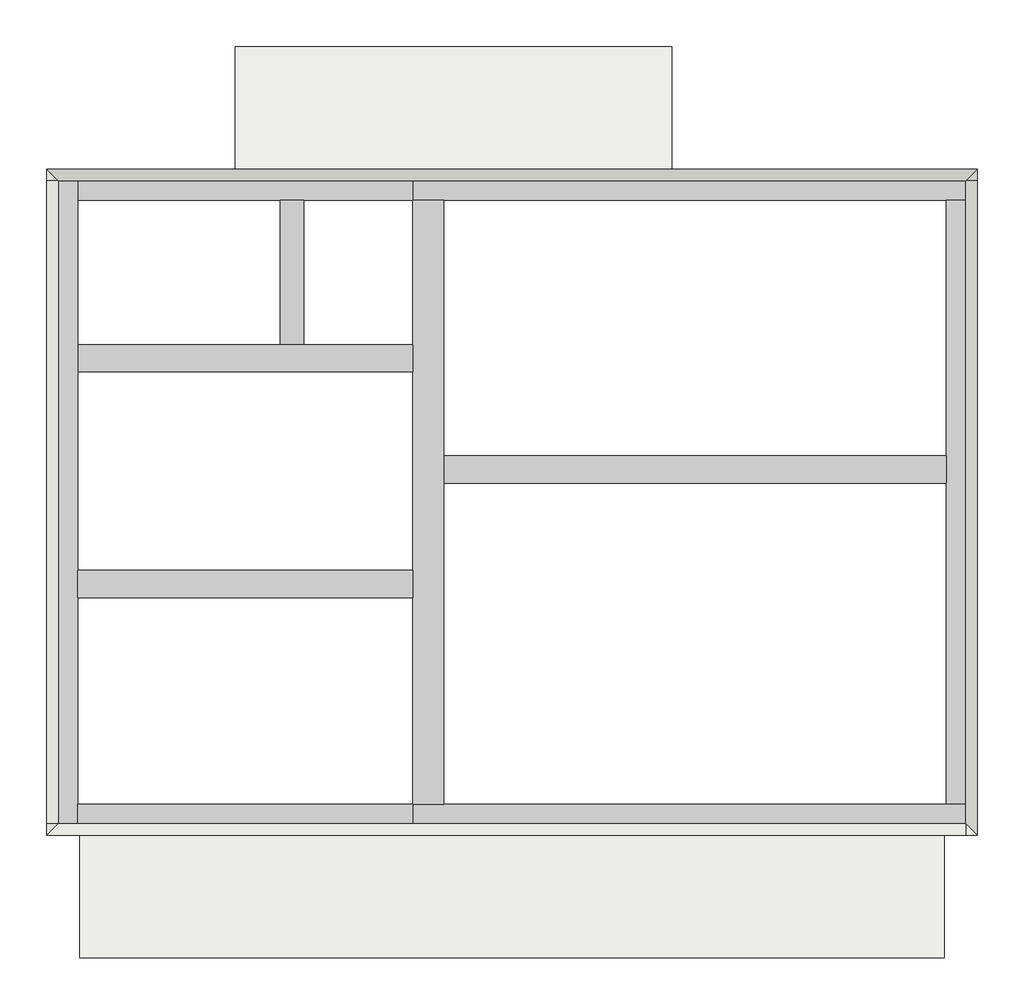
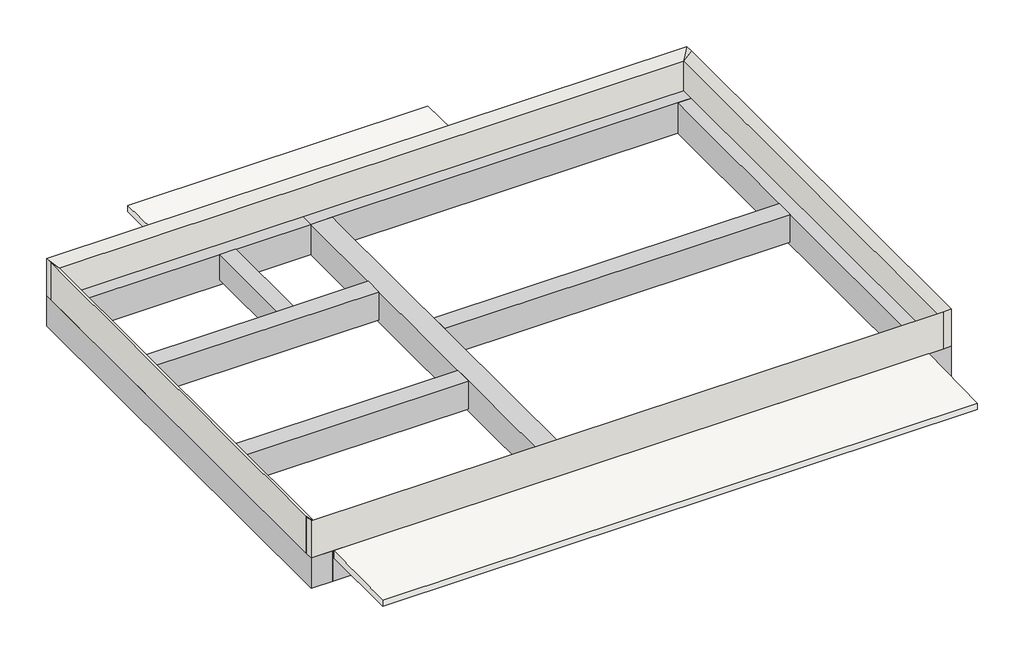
# One storey: 11 beams, 4 walls, 2 slabs.
"""IFC4 building model written with IfcOpenShell, lengths in millimetres."""

from ifc_helpers import new_model, si_unit, frame, origin, place, context, project, spatial, polyline, outline, extrude, faceted_brep, element, save

model = new_model("IFC4")

# Units and contexts
model_context = context("Model", 3, world=origin())
ifc_project = project(units=[si_unit("LENGTHUNIT", "METRE", prefix="MILLI")], contexts=[model_context])

# Site, building, storey
site = spatial("IfcSite", under=ifc_project)
building = spatial("IfcBuilding", under=site)
storey = spatial("IfcBuildingStorey", under=building, Name="RSL", Elevation=12780.0)

# Beams
placement = place(None, origin())
element("IfcBeam", 1, ObjectType="コンクリート-長方形梁 : B1-350x550", at=placement, inside=storey, context=model_context, shape_type="Brep", body=[
    faceted_brep([(325.0, 6225.0, 12780.0), (325.0, 5875.0, 12780.0), (4625.0, 5875.0, 12780.0), (4625.0, 6225.0, 12780.0), (3225.0, 6225.0, 12780.0), (2925.0, 6225.0, 12780.0), (325.0, 5875.0, 12230.0), (4625.0, 5875.0, 12230.0), (325.0, 6225.0, 12230.0), (4625.0, 6225.0, 12230.0)], [[[0, 1, 2, 3, 4, 5]], [[1, 6, 7, 2]], [[6, 8, 9, 7]], [[8, 0, 5, 4, 3, 9]], [[1, 0, 8, 6]], [[3, 2, 7, 9]]]),
])
element("IfcBeam", 2, ObjectType="コンクリート-長方形梁 : B1-350x550", at=placement, inside=storey, context=model_context, shape_type="SweptSolid", body=[
    extrude(outline(polyline([(325.0, 2975.0), (325.0, 3325.0), (4625.0, 3325.0), (4625.0, 2975.0), (325.0, 2975.0)])), frame((0.0, 0.0, 12230.0), z_axis=(0.0, 0.0, 1.0), x_axis=(1.0, 0.0, 0.0)), (0.0, 0.0, 1.0), 550.0),
])
element("IfcBeam", 3, ObjectType="コンクリート-長方形梁 : B1-350x550", at=placement, inside=storey, context=model_context, shape_type="SweptSolid", body=[
    extrude(outline(polyline([(11475.0, 4795.0), (11475.0, 4445.0), (5025.0, 4445.0), (5025.0, 4795.0), (11475.0, 4795.0)])), frame((0.0, 0.0, 12230.0), z_axis=(0.0, 0.0, 1.0), x_axis=(1.0, 0.0, 0.0)), (0.0, 0.0, 1.0), 550.0),
])
element("IfcBeam", 4, ObjectType="コンクリート-長方形梁 : B2-300x500", at=placement, inside=storey, context=model_context, shape_type="SweptSolid", body=[
    extrude(outline(polyline([(2925.0, 8075.0), (3225.0, 8075.0), (3225.0, 6225.0), (2925.0, 6225.0), (2925.0, 8075.0)])), frame((0.0, 0.0, 12280.0), z_axis=(0.0, 0.0, 1.0), x_axis=(1.0, 0.0, 0.0)), (0.0, 0.0, 1.0), 500.0),
])
element("IfcBeam", 5, ObjectType="コンクリート-長方形梁 : G1-400x600", at=placement, inside=storey, context=model_context, shape_type="Brep", body=[
    faceted_brep([(325.0, 325.0, 12780.0), (325.0, -75.0, 12780.0), (4625.0, -75.0, 12780.0), (4625.0, 325.0, 12780.0), (525.0, 325.0, 12780.0), (325.0, -75.0, 12180.0), (4625.0, -75.0, 12180.0), (325.0, 325.0, 12180.0), (525.0, 325.0, 12180.0), (4625.0, 325.0, 12180.0)], [[[0, 1, 2, 3, 4]], [[1, 5, 6, 2]], [[5, 7, 8, 9, 6]], [[7, 0, 4, 3, 9, 8]], [[1, 0, 7, 5]], [[3, 2, 6, 9]]]),
])
element("IfcBeam", 6, ObjectType="コンクリート-長方形梁 : G1-400x600", at=placement, inside=storey, context=model_context, shape_type="Brep", body=[
    faceted_brep([(11875.0, -75.0, 12780.0), (11875.0, 325.0, 12780.0), (11475.0, 325.0, 12780.0), (11275.0, 325.0, 12780.0), (5225.0, 325.0, 12780.0), (5025.0, 325.0, 12780.0), (4625.0, 325.0, 12780.0), (4625.0, -75.0, 12780.0), (11875.0, -75.0, 12180.0), (4625.0, -75.0, 12180.0), (11875.0, 325.0, 12180.0), (4625.0, 75.0, 12180.0), (4625.0, 325.0, 12180.0), (5025.0, 325.0, 12180.0), (5225.0, 325.0, 12180.0), (11275.0, 325.0, 12180.0), (11475.0, 325.0, 12180.0)], [[[0, 1, 2, 3, 4, 5, 6, 7]], [[8, 0, 7, 9]], [[10, 8, 9, 11, 12, 13, 14, 15, 16]], [[1, 10, 16, 15, 14, 13, 12, 6, 5, 4, 3, 2]], [[1, 0, 8, 10]], [[7, 6, 12, 11, 9]]]),
])
element("IfcBeam", 7, ObjectType="コンクリート-長方形梁 : G1-400x600", at=placement, inside=storey, context=model_context, shape_type="Brep", body=[
    faceted_brep([(11875.0, 8075.0, 12780.0), (11475.0, 8075.0, 12780.0), (11475.0, 7875.0, 12780.0), (11475.0, 525.0, 12780.0), (11475.0, 325.0, 12780.0), (11875.0, 325.0, 12780.0), (11875.0, 8075.0, 12180.0), (11875.0, 325.0, 12180.0), (11475.0, 8075.0, 12180.0), (11475.0, 325.0, 12180.0), (11475.0, 525.0, 12180.0), (11475.0, 7875.0, 12180.0)], [[[0, 1, 2, 3, 4, 5]], [[6, 0, 5, 7]], [[8, 6, 7, 9, 10, 11]], [[1, 8, 11, 10, 9, 4, 3, 2]], [[1, 0, 6, 8]], [[5, 4, 9, 7]]]),
])
element("IfcBeam", 8, ObjectType="コンクリート-長方形梁 : G1-400x600", at=placement, inside=storey, context=model_context, shape_type="Brep", body=[
    faceted_brep([(4625.0, 8475.0, 12780.0), (4625.0, 8075.0, 12780.0), (5025.0, 8075.0, 12780.0), (5225.0, 8075.0, 12780.0), (11275.0, 8075.0, 12780.0), (11475.0, 8075.0, 12780.0), (11875.0, 8075.0, 12780.0), (11875.0, 8475.0, 12780.0), (4625.0, 8475.0, 12180.0), (11875.0, 8475.0, 12180.0), (4625.0, 8075.0, 12180.0), (11875.0, 8075.0, 12180.0), (11475.0, 8075.0, 12180.0), (11275.0, 8075.0, 12180.0), (5225.0, 8075.0, 12180.0), (5025.0, 8075.0, 12180.0)], [[[0, 1, 2, 3, 4, 5, 6, 7]], [[8, 0, 7, 9]], [[10, 8, 9, 11, 12, 13, 14, 15]], [[1, 10, 15, 14, 13, 12, 11, 6, 5, 4, 3, 2]], [[1, 0, 8, 10]], [[7, 6, 11, 9]]]),
])
element("IfcBeam", 9, ObjectType="コンクリート-長方形梁 : G1-400x600", at=placement, inside=storey, context=model_context, shape_type="Brep", body=[
    faceted_brep([(4625.0, 8075.0, 12780.0), (4625.0, 8475.0, 12780.0), (325.0, 8475.0, 12780.0), (325.0, 8075.0, 12780.0), (525.0, 8075.0, 12780.0), (4625.0, 8475.0, 12180.0), (325.0, 8475.0, 12180.0), (4625.0, 8075.0, 12180.0), (525.0, 8075.0, 12180.0), (325.0, 8075.0, 12180.0)], [[[0, 1, 2, 3, 4]], [[1, 5, 6, 2]], [[5, 7, 8, 9, 6]], [[7, 0, 4, 3, 9, 8]], [[1, 0, 7, 5]], [[3, 2, 6, 9]]]),
])
element("IfcBeam", 10, ObjectType="コンクリート-長方形梁 : G1-400x600", at=placement, inside=storey, context=model_context, shape_type="Brep", body=[
    faceted_brep([(-75.0, -75.0, 12780.0), (325.0, -75.0, 12780.0), (325.0, 325.0, 12780.0), (325.0, 525.0, 12780.0), (325.0, 2975.0, 12780.0), (325.0, 3325.0, 12780.0), (325.0, 5875.0, 12780.0), (325.0, 6225.0, 12780.0), (325.0, 7875.0, 12780.0), (325.0, 8075.0, 12780.0), (325.0, 8475.0, 12780.0), (-75.0, 8475.0, 12780.0), (-75.0, -75.0, 12180.0), (-75.0, 8475.0, 12180.0), (325.0, -75.0, 12180.0), (325.0, 8475.0, 12180.0), (325.0, 8075.0, 12180.0), (325.0, 7875.0, 12180.0), (325.0, 525.0, 12180.0), (325.0, 325.0, 12180.0)], [[[0, 1, 2, 3, 4, 5, 6, 7, 8, 9, 10, 11]], [[12, 0, 11, 13]], [[14, 12, 13, 15, 16, 17, 18, 19]], [[1, 14, 19, 18, 17, 16, 15, 10, 9, 8, 7, 6, 5, 4, 3, 2]], [[1, 0, 12, 14]], [[11, 10, 15, 13]]]),
])
element("IfcBeam", 11, ObjectType="コンクリート-長方形梁 : G1-400x600", at=placement, inside=storey, context=model_context, shape_type="Brep", body=[
    faceted_brep([(5025.0, 8075.0, 12780.0), (4625.0, 8075.0, 12780.0), (4625.0, 325.0, 12780.0), (5025.0, 325.0, 12780.0), (5025.0, 525.0, 12780.0), (5025.0, 7875.0, 12780.0), (4625.0, 8075.0, 12180.0), (4625.0, 525.0, 12180.0), (4625.0, 325.0, 12180.0), (5025.0, 8075.0, 12180.0), (5025.0, 7875.0, 12180.0), (5025.0, 525.0, 12180.0), (5025.0, 325.0, 12180.0)], [[[0, 1, 2, 3, 4, 5]], [[1, 6, 7, 8, 2]], [[6, 9, 10, 11, 12, 8, 7]], [[9, 0, 5, 4, 3, 12, 11, 10]], [[1, 0, 9, 6]], [[3, 2, 8, 12]]]),
])

# Slabs
element("IfcSlab", 12, ObjectType="一般150mm", at=placement, inside=storey, context=model_context, shape_type="SweptSolid", body=[
    extrude(outline(polyline([(-75.0, 12630.0), (-1650.0, 12630.0), (-1650.0, 12750.0), (-75.0, 12780.0), (-75.0, 12630.0)])), frame((350.0, 0.0, 0.0), z_axis=(1.0, 0.0, 0.0), x_axis=(0.0, 1.0, 0.0)), (0.0, 0.0, 1.0), 11100.0),
])
element("IfcSlab", 13, ObjectType="一般150mm", at=placement, inside=storey, context=model_context, shape_type="SweptSolid", body=[
    extrude(outline(polyline([(10050.0, 12630.0), (8475.0, 12630.0), (8475.0, 12780.0), (10050.0, 12750.0), (10050.0, 12630.0)])), frame((2350.0, 0.0, 0.0), z_axis=(1.0, 0.0, 0.0), x_axis=(0.0, 1.0, 0.0)), (0.0, 0.0, 1.0), 5600.0),
])

# Walls
element("IfcWall", 14, ObjectType="パラペット-150mm", at=placement, inside=storey, context=model_context, shape_type="Brep", body=[
    faceted_brep([(-75.0, 8325.0, 12780.0), (75.0, 8325.0, 12780.0), (11725.0, 8325.0, 12780.0), (11875.0, 8325.0, 12780.0), (11875.0, 8325.0, 13510.0), (11725.0, 8325.0, 13360.0), (75.0, 8325.0, 13360.0), (-75.0, 8325.0, 13510.0), (11875.0, 8475.0, 12780.0), (-75.0, 8475.0, 12780.0), (-75.0, 8475.0, 13510.0), (11875.0, 8475.0, 13510.0)], [[[0, 1, 2, 3, 4, 5, 6, 7]], [[8, 9, 10, 11]], [[3, 2, 1, 0, 9, 8]], [[10, 6, 5, 11]], [[4, 3, 8, 11]], [[11, 5, 4]], [[0, 7, 10, 9]], [[6, 10, 7]]]),
])
element("IfcWall", 15, ObjectType="パラペット-150mm", at=placement, inside=storey, context=model_context, shape_type="Brep", body=[
    faceted_brep([(11725.0, 8325.0, 12780.0), (11725.0, 75.0, 12780.0), (11725.0, -75.0, 12780.0), (11725.0, -75.0, 13510.0), (11725.0, 75.0, 13360.0), (11725.0, 8325.0, 13360.0), (11875.0, -75.0, 12780.0), (11875.0, 8325.0, 12780.0), (11875.0, 8325.0, 13510.0), (11875.0, -75.0, 13510.0)], [[[0, 1, 2, 3, 4, 5]], [[6, 7, 8, 9]], [[2, 1, 0, 7, 6]], [[4, 9, 8, 5]], [[8, 7, 0, 5]], [[3, 2, 6, 9]], [[9, 4, 3]]]),
])
element("IfcWall", 16, ObjectType="パラペット-150mm", at=placement, inside=storey, context=model_context, shape_type="Brep", body=[
    faceted_brep([(11725.0, 75.0, 12780.0), (75.0, 75.0, 12780.0), (-75.0, 75.0, 12780.0), (-75.0, 75.0, 13510.0), (75.0, 75.0, 13360.0), (11725.0, 75.0, 13360.0), (-75.0, -75.0, 12780.0), (11725.0, -75.0, 12780.0), (11725.0, -75.0, 13510.0), (-75.0, -75.0, 13510.0)], [[[0, 1, 2, 3, 4, 5]], [[6, 7, 8, 9]], [[2, 1, 0, 7, 6]], [[4, 9, 8, 5]], [[8, 7, 0, 5]], [[3, 2, 6, 9]], [[9, 4, 3]]]),
])
element("IfcWall", 17, ObjectType="パラペット-150mm", at=placement, inside=storey, context=model_context, shape_type="SweptSolid", body=[
    extrude(outline(polyline([(13510.0, -75.0), (12780.0, -75.0), (12780.0, 75.0), (13360.0, 75.0), (13510.0, -75.0)])), frame((0.0, 75.0, 0.0), z_axis=(0.0, 1.0, 0.0), x_axis=(0.0, 0.0, 1.0)), (0.0, 0.0, 1.0), 8250.0),
])

save(model, "model.ifc")
